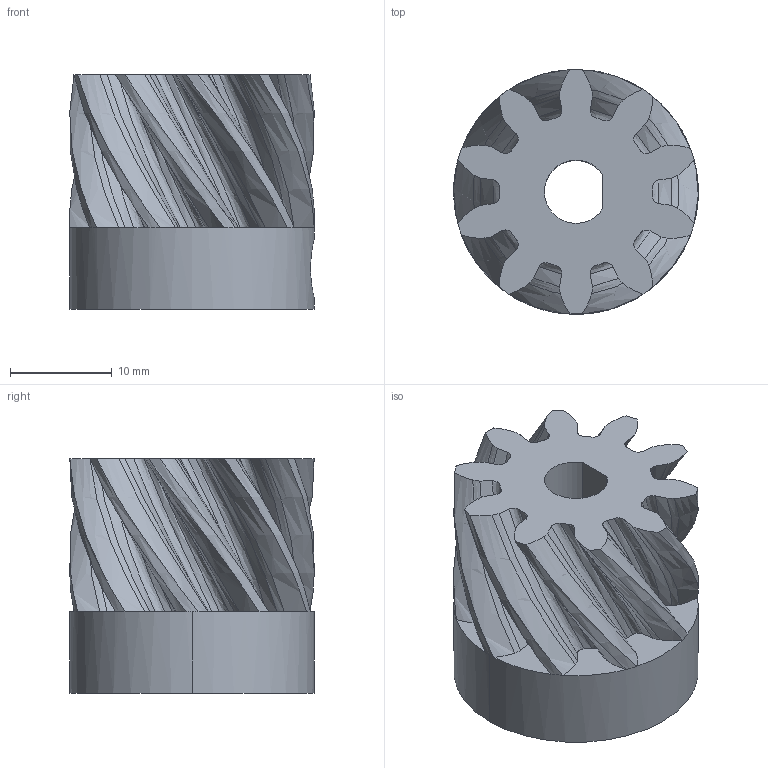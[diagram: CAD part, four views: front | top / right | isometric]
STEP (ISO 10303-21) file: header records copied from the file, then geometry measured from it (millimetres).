
FILE_DESCRIPTION((''),'2;1');
FILE_NAME('ART2MOTORGEAR','2022-08-24T09:24:06',('domen.bizjak'),('Audax d.o.o.'),'CREO PARAMETRIC BY PTC INC, 2021184','CREO PARAMETRIC BY PTC INC, 2021184','');
FILE_SCHEMA(('AP242_MANAGED_MODEL_BASED_3D_ENGINEERING_MIM_LF { 1 0 10303 442 1 1 4 }'));
Length unit declared in the file: millimetre
Products named in the file (1): ART2MOTORGEAR
Bounding box: 24 x 24 x 23 mm (x, y, z)
Volume: 7225.1 mm3; surface area: 4146.3 mm2
Topology: 1 solids, 1 shells, 130 faces, 371 edges, 246 vertices
Faces by surface type: bspline 100, plane 21, cylinder 9
Entity records: 9067 total; most frequent: CARTESIAN_POINT 4715, ORIENTED_EDGE 736, PRESENTATION_STYLE_ASSIGNMENT 378, STYLED_ITEM 378, CURVE_STYLE 373, EDGE_CURVE 368, COLOUR_RGB 319, B_SPLINE_CURVE_WITH_KNOTS 258
